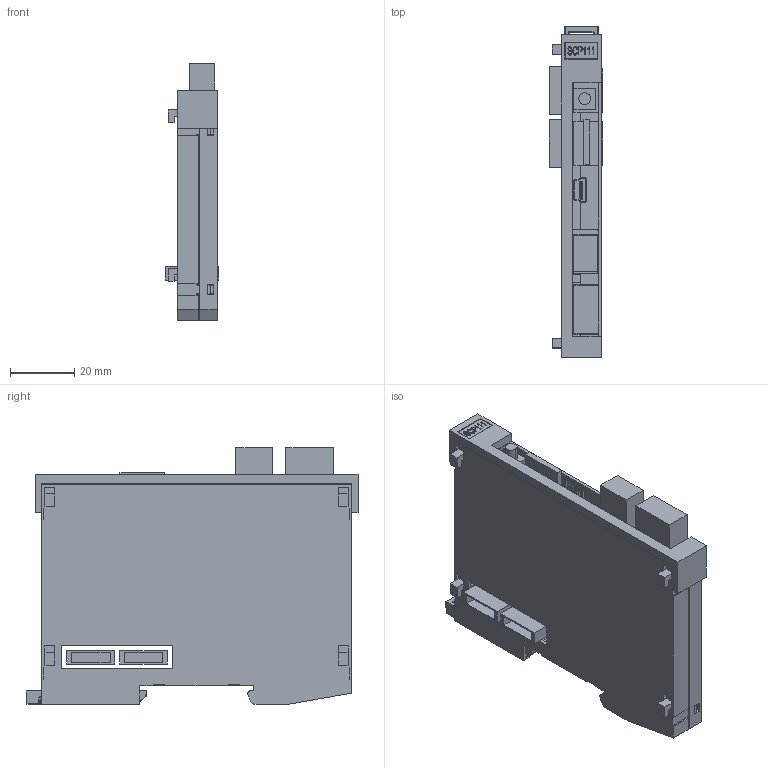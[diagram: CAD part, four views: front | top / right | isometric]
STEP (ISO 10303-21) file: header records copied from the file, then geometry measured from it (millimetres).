
FILE_DESCRIPTION (( 'STEP AP214' ), '1' );
FILE_NAME ('SCP111.STEP', '2015-08-18T12:03:05', ( 'SIGMATEK GmbH & Co KG' ), ( 'SIGMATEK GmbH & Co KG' ), 'SwSTEP 2.0', 'SolidWorks 2013', '' );
FILE_SCHEMA (( 'AUTOMOTIVE_DESIGN' ));
Length unit declared in the file: millimetre
Products named in the file (16): LP_SCP111; Dummy_7297771206_TA3_1W2_V_T_R; Dummy____________fmc_1.5 3pol 1952296; Dummy_4110262104 4pol.Federkraftstecker f.2reih 1952283; Dummy_4110251244 3pol.Mini-Combic.Steckergrundg. RM 3,5 1844223; Dummy_4110251205 4pol.Minicombicon-Grundgehäuse RM3,5 1937512; Dummy_4080225345 Erni Buchse; Dummy_4080225346 Erni Stift; Dummy_4080225147 & 751771034 Micro SD Connector incl. SD-Card; Dummy_4080225241 MINI USB; S-Dias Rasthaken 20130313; Schieber_f Suport; S-Dias Schale rechts_f Suport 2 Stecker; S-Dias Schale links_f Suport 2 Stecker; 4110251342_MF 10-5 MC CABUR_1854510000; SCP111
Assembly tree (17 placements, depth 3):
  SCP111
    4110251342_MF 10-5 MC CABUR_1854510000
    S-Dias Schale links_f Suport 2 Stecker
    S-Dias Schale rechts_f Suport 2 Stecker
    Schieber_f Suport
    S-Dias Rasthaken 20130313
    LP_SCP111
      Dummy_4080225241 MINI USB
      Dummy_4080225147 & 751771034 Micro SD Connector incl. SD-Card
      Dummy_4080225346 Erni Stift  x2
      Dummy_4080225345 Erni Buchse  x2
      Dummy_4110251205 4pol.Minicombicon-Grundgehäuse RM3,5 1937512
      Dummy_4110251244 3pol.Mini-Combic.Steckergrundg. RM 3,5 1844223
      Dummy_4110262104 4pol.Federkraftstecker f.2reih 1952283
      Dummy____________fmc_1.5 3pol 1952296
      Dummy_7297771206_TA3_1W2_V_T_R
Bounding box: 16.8 x 103.61 x 80.15 mm (x, y, z)
Volume: 26744.6 mm3; surface area: 43669.1 mm2
Topology: 16 solids, 16 shells, 937 faces, 2667 edges, 1758 vertices
Faces by surface type: plane 627, cylinder 158, bspline 88, cone 28, torus 19, sphere 17
Entity records: 36673 total; most frequent: CARTESIAN_POINT 10003, ORIENTED_EDGE 5188, DIRECTION 4069, EDGE_CURVE 2594, LINE 1815, VECTOR 1815, VERTEX_POINT 1718, AXIS2_PLACEMENT_3D 1127
